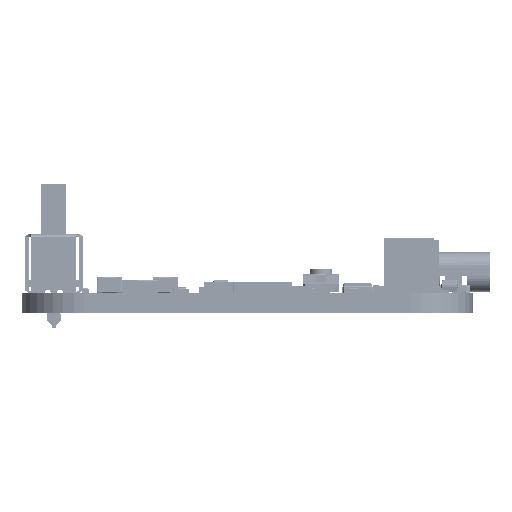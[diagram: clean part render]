
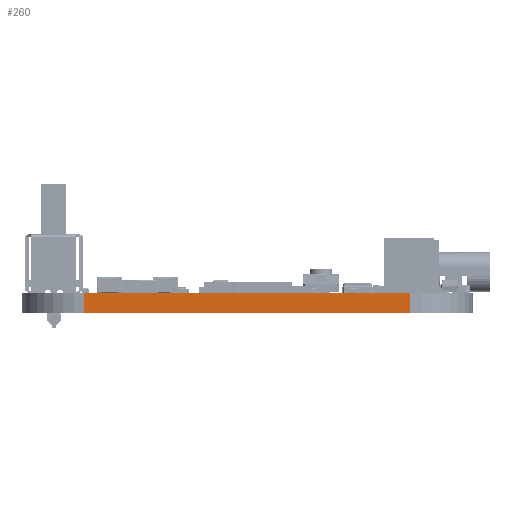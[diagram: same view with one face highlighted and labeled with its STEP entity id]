
A CAD part, left-side view. The second image highlights one B-rep face of the part: STEP entity #260.
In plain terms, the highlighted planar face has unit normal (-1, 0, 0).
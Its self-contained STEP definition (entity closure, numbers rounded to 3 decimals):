
#233 = VERTEX_POINT('',#234);
#234 = CARTESIAN_POINT('',(-43.548,-20.761,    1.6));
#241 = EDGE_CURVE('',#242,#233,#244,.T.);
#242 = VERTEX_POINT('',#243);
#243 = CARTESIAN_POINT('',(-43.548,-20.761,0.));
#244 = LINE('',#245,#246);
#245 = CARTESIAN_POINT('',(-43.548,-20.761,0.));
#246 = VECTOR('',#247,1.);
#247 = DIRECTION('',(0.,0.,1.));
#260 = ADVANCED_FACE('',(#261),#286,.T.);
#261 = FACE_BOUND('',#262,.T.);
#262 = EDGE_LOOP('',(#263,#264,#272,#280));
#263 = ORIENTED_EDGE('',*,*,#241,.T.);
#264 = ORIENTED_EDGE('',*,*,#265,.T.);
#265 = EDGE_CURVE('',#233,#266,#268,.T.);
#266 = VERTEX_POINT('',#267);
#267 = CARTESIAN_POINT('',(-43.548,5.287,1.6    ));
#268 = LINE('',#269,#270);
#269 = CARTESIAN_POINT('',(-43.548,-20.761,    1.6));
#270 = VECTOR('',#271,1.);
#271 = DIRECTION('',(0.,1.,0.));
#272 = ORIENTED_EDGE('',*,*,#273,.F.);
#273 = EDGE_CURVE('',#274,#266,#276,.T.);
#274 = VERTEX_POINT('',#275);
#275 = CARTESIAN_POINT('',(-43.548,5.287,0.));
#276 = LINE('',#277,#278);
#277 = CARTESIAN_POINT('',(-43.548,5.287,0.));
#278 = VECTOR('',#279,1.);
#279 = DIRECTION('',(0.,0.,1.));
#280 = ORIENTED_EDGE('',*,*,#281,.F.);
#281 = EDGE_CURVE('',#242,#274,#282,.T.);
#282 = LINE('',#283,#284);
#283 = CARTESIAN_POINT('',(-43.548,-20.761,0.));
#284 = VECTOR('',#285,1.);
#285 = DIRECTION('',(0.,1.,0.));
#286 = PLANE('',#287);
#287 = AXIS2_PLACEMENT_3D('',#288,#289,#290);
#288 = CARTESIAN_POINT('',(-43.548,-20.761,0.));
#289 = DIRECTION('',(-1.,0.,0.));
#290 = DIRECTION('',(0.,1.,0.));
